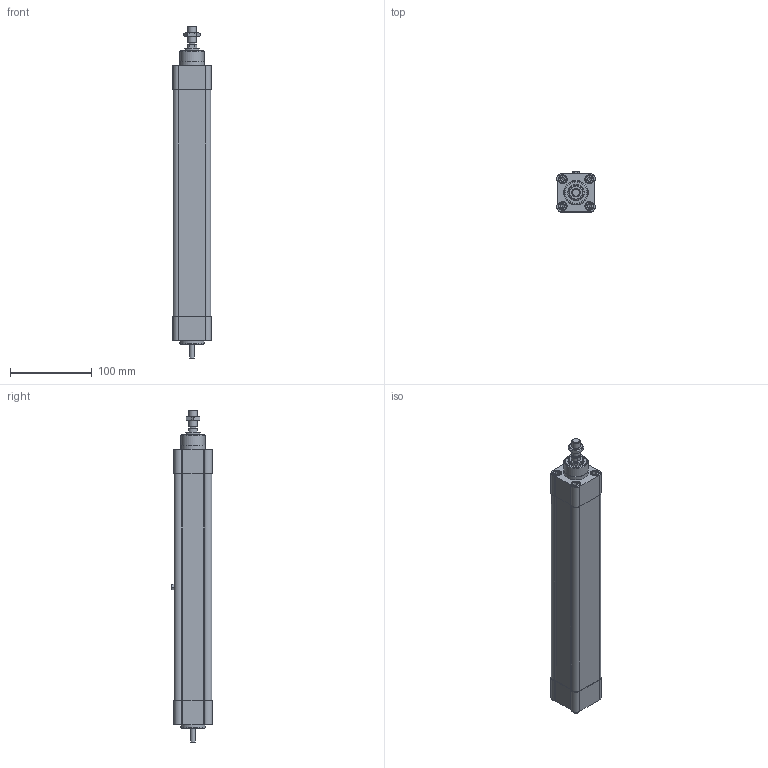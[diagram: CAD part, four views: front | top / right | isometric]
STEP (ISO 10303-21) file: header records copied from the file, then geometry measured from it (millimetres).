
FILE_DESCRIPTION(/* description */ ('STEP AP203'),/* implementation_level */ '2;1');
FILE_NAME(/* name */ 'PNCE 32 BS 1205 200 S(0)',/* time_stamp */ '2024-07-18T16:22:11+02:00',/* author */ ('License CC BY-ND 4.0'),/* organization */ ('CADENAS'),/* preprocessor_version */ 'ST-DEVELOPER v19.3',/* originating_system */ 'PARTsolutions',/* authorisation */ ' ');
FILE_SCHEMA (('CONFIG_CONTROL_DESIGN'));
Length unit declared in the file: millimetre
Products named in the file (6): PNCE 32 BS 1205 200 S(0); PNCE 32_drive cap; PNCE 32 200 S(0)_cylinder profil; PNCE 32_front cap; PNCE 32 200 S 0_piston rod; PNCE 32_nut
Assembly tree (5 placements, depth 2):
  PNCE 32 BS 1205 200 S(0)
    PNCE 32_drive cap
    PNCE 32 200 S(0)_cylinder profil
    PNCE 32_front cap
    PNCE 32 200 S 0_piston rod
    PNCE 32_nut
Bounding box: 46.97 x 49.5 x 405 mm (x, y, z)
Volume: 576178.7 mm3; surface area: 151974.6 mm2
Topology: 5 solids, 5 shells, 271 faces, 583 edges, 379 vertices
Faces by surface type: plane 143, cylinder 88, cone 37, torus 2, sphere 1
Full cylindrical faces by diameter (mm): 4.917 x8, 5 x4, 5.3 x1, 6 x9, 6.7 x4, 8 x1, 8.376 x1, 8.4 x1, 8.566 x1, 10 x9, 11 x8, 17.8 x1, 18 x2, 19 x1, 20 x1, 22 x1, 26 x1, 29.5 x1, 30 x3, 31.5 x1, 32.5 x3
Entity records: 8607 total; most frequent: CARTESIAN_POINT 1229, DIRECTION 1202, ORIENTED_EDGE 942, AXIS2_PLACEMENT_3D 482, EDGE_CURVE 471, FACE_BOUND 436, EDGE_LOOP 428, VERTEX_POINT 369
